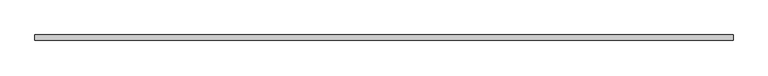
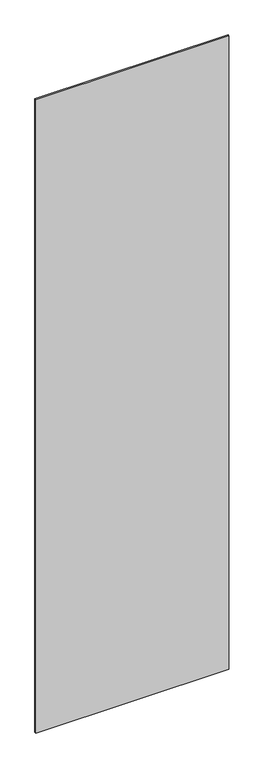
"""IFC4 building model written with IfcOpenShell, lengths in millimetres: plate geometry, システム パネル : 標準."""

from ifc_helpers import new_model, si_unit, origin, origin_with_axes, place, context, project, spatial, polyline, outline, extrude, source, transform, mapped, element, save


def plate_402fed1d(model_context):
    return source(origin(), model_context, "Body", "SweptSolid", [
        extrude(outline(polyline([(628.6999103, -5.0), (-628.6999103, -5.0), (-628.6999103, 5.0), (628.6999103, 5.0), (628.6999103, -5.0)])), origin_with_axes(), (0.0, 0.0, 1.0), 4360.0),
    ])


if __name__ == "__main__":
    model = new_model("IFC4")
    model_context = context("Model", 3, world=origin())
    ifc_project = project(units=[si_unit("LENGTHUNIT", "METRE", prefix="MILLI")], contexts=[model_context])
    site = spatial("IfcSite", under=ifc_project)
    building = spatial("IfcBuilding", under=site)
    placement = place(None, origin())
    plate_shape = plate_402fed1d(model_context)
    element("IfcPlate", 1, ObjectType="システム パネル : 標準", at=placement, inside=building, context=model_context, shape_type="MappedRepresentation", body=[
        mapped(plate_shape, transform((0.0, 0.0, 0.0), x_axis=(1.0, 0.0, 0.0), y_axis=(0.0, 1.0, 0.0), z_axis=(0.0, 0.0, 1.0))),
    ])
    save(model, "model.ifc")
